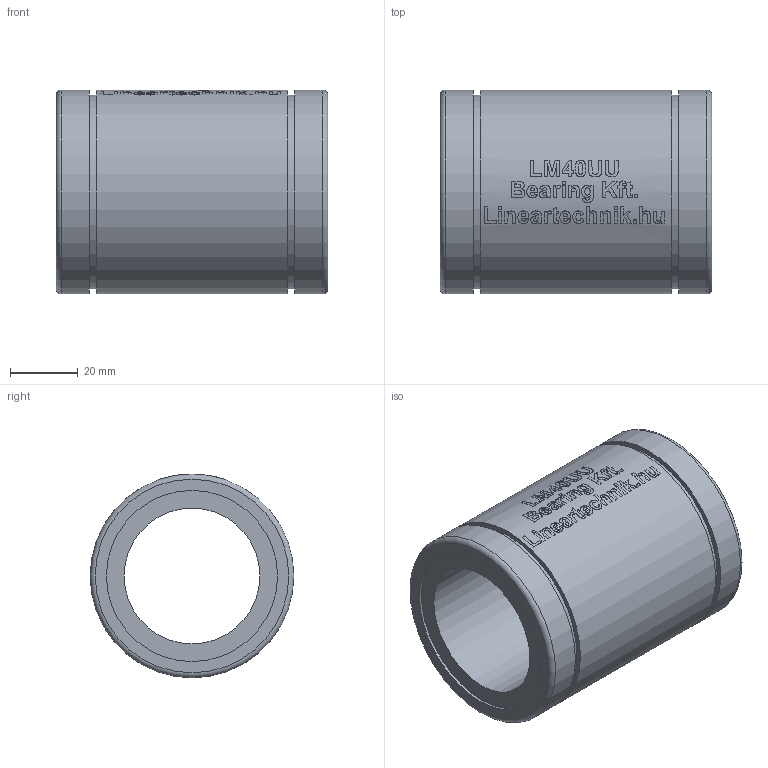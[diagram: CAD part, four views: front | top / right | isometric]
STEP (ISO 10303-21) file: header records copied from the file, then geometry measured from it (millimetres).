
FILE_DESCRIPTION(/* description */ ('Huosing for flange nuts'),/* implementation_level */ '2;1');
FILE_NAME(/* name */ 'LM40UU',/* time_stamp */ '2019-05-07T14:08:28+02:00',/* author */ ('VĂ©gh MĂˇtĂ©'),/* organization */ ('Bearing Kft'),/* preprocessor_version */ 'ST-DEVELOPER v16.7',/* originating_system */ 'DEX',/* authorisation */ $);
FILE_SCHEMA (('AUTOMOTIVE_DESIGN {1 0 10303 214 3 1 1}'));
Length unit declared in the file: millimetre
Products named in the file (1): LM40UU
Bounding box: 80 x 60 x 60 mm (x, y, z)
Volume: 123120.5 mm3; surface area: 29205.5 mm2
Topology: 1 solids, 1 shells, 315 faces, 815 edges, 544 vertices
Faces by surface type: plane 165, bspline 92, cylinder 56, torus 2
Full cylindrical faces by diameter (mm): 40 x1, 50.4 x2, 57 x2, 60 x3
Entity records: 19885 total; most frequent: CARTESIAN_POINT 12933, ORIENTED_EDGE 1526, DIRECTION 1170, EDGE_CURVE 763, VERTEX_POINT 517, LINE 416, VECTOR 416, EDGE_LOOP 380
